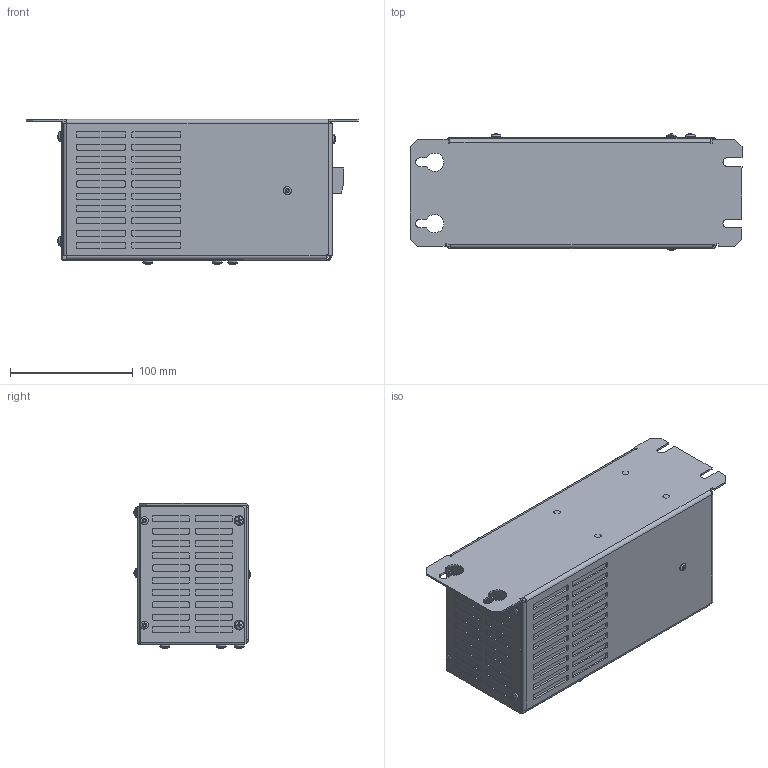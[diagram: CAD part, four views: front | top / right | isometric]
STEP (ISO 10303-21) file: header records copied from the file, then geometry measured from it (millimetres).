
FILE_DESCRIPTION(/* description */ (''),/* implementation_level */ '2;1');
FILE_NAME(/* name */ 'C:\Users\Erika.Jenzer\OneDrive - Schaffner EMV AG\CR_COs\FN5420 IP20 FRAME SIZE A.stp',/* time_stamp */ '2022-03-03T14:26:55+01:00',/* author */ ('erika.jenzer'),/* organization */ (''),/* preprocessor_version */ 'ST-DEVELOPER v18.1',/* originating_system */ 'Autodesk Inventor 2020',/* authorisation */ '');
FILE_SCHEMA (('AUTOMOTIVE_DESIGN { 1 0 10303 214 3 1 1 }'));
Products named in the file (1): FN5420 IP20 FRAME SIZE A
Bounding box: 270 x 94.47 x 118.07 mm (x, y, z)
Volume: 1979398.5 mm3; surface area: 199556 mm2
Topology: 2 solids, 51 shells, 1976 faces, 5141 edges, 3389 vertices
Faces by surface type: plane 1099, cylinder 579, cone 150, torus 107, sphere 23, bspline 18
Full cylindrical faces by diameter (mm): 0.024 x2, 2 x4, 2.3 x4, 2.4 x2, 3.1 x2, 3.2 x4, 3.3 x1, 3.5 x4, 3.621 x11, 4 x14, 4.5 x8, 4.8 x11, 5 x12, 5.3 x6, 5.4 x8, 6.5 x4, 7 x3, 7.3 x2, 8 x1, 8.5 x6, 10 x2
Entity records: 64301 total; most frequent: CARTESIAN_POINT 13270, DIRECTION 10446, ORIENTED_EDGE 10236, EDGE_CURVE 5118, AXIS2_PLACEMENT_3D 3715, VERTEX_POINT 3389, LINE 3016, VECTOR 3016
